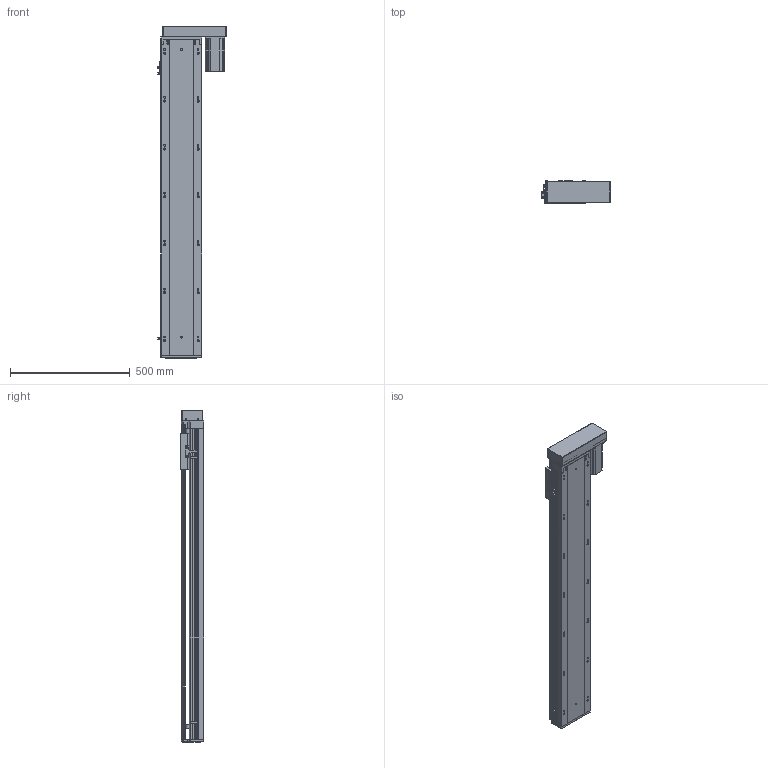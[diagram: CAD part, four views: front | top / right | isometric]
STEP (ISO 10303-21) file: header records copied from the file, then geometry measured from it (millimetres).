
FILE_DESCRIPTION (( 'STEP AP203' ), '1' );
FILE_NAME ('RY170-L2510-1400-RK.SLDASM_1050.step', '2021-03-12T09:37:49', ( '盈信电脑' ), ( '东莞市道滘镇水果街19号' ), 'SwSTEP 2.0', 'SolidWorks 2012', '' );
FILE_SCHEMA (( 'CONFIG_CONTROL_DESIGN' ));
Length unit declared in the file: millimetre
Products named in the file (13): RY170-酘衵殏750W萇儂傷; RY170-L2510-1400-RK.SLDASM_1050; RY170外置感应片(200共用）; 覜茼ん672; 怢湛750W萇儂ㄗ80遺ㄘ; RY170酘衵殏萇儂欶750W; RY170-左右折电机安装板750W; RY170-1400倰第裔啣-LK_1050; RY170转折电机端支撑座(7004); 滅袉蝶18-20; RY170綴裔啣; 改造-RY170铝滑块25丝杆螺母; RY170-1400倰第菁釱-LK_1050
Assembly tree (15 placements, depth 3):
  RY170-L2510-1400-RK.SLDASM_1050
    RY170-1400倰第菁釱-LK_1050
    改造-RY170铝滑块25丝杆螺母
    RY170-1400倰第裔啣-LK_1050
    RY170綴裔啣
    滅袉蝶18-20  x2
    RY170转折电机端支撑座(7004)
    RY170-酘衵殏750W萇儂傷
      RY170-左右折电机安装板750W
      RY170酘衵殏萇儂欶750W
      怢湛750W萇儂ㄗ80遺ㄘ
    覜茼ん672  x3
    RY170外置感应片(200共用）
Bounding box: 286.2 x 97 x 1385 mm (x, y, z)
Volume: 7551434.5 mm3; surface area: 2371009.7 mm2
Topology: 14 solids, 14 shells, 2201 faces, 6290 edges, 4030 vertices
Faces by surface type: plane 1088, cylinder 904, cone 190, bspline 19
Entity records: 70554 total; most frequent: CARTESIAN_POINT 16824, ORIENTED_EDGE 11256, DIRECTION 10466, EDGE_CURVE 5628, VERTEX_POINT 3698, AXIS2_PLACEMENT_3D 3490, LINE 3486, VECTOR 3486
